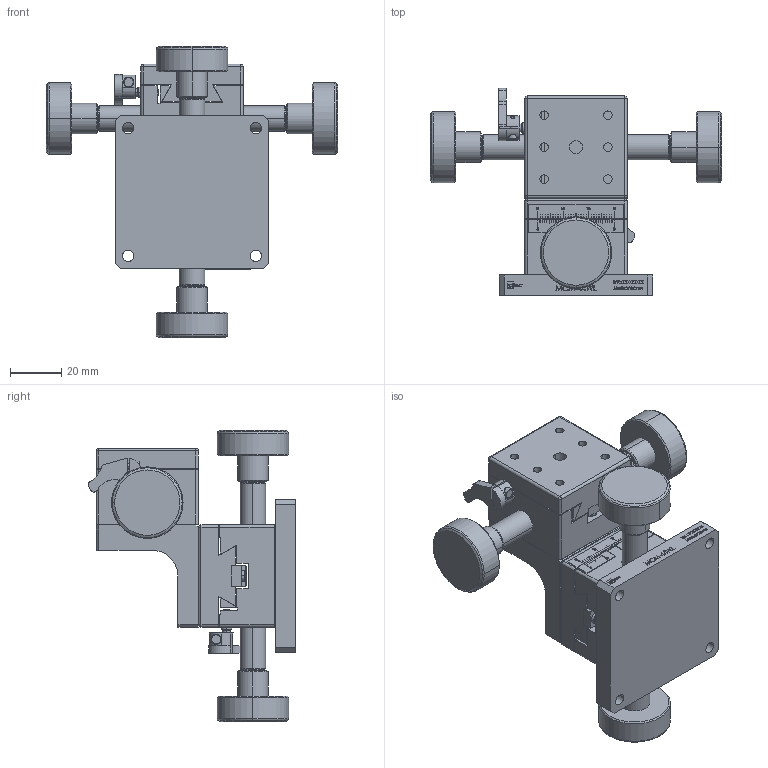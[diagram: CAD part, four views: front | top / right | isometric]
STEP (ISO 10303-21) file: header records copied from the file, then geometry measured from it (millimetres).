
FILE_DESCRIPTION (( 'STEP AP203' ), '1' );
FILE_NAME ('MCM-44LW-(«¬¿ý).STEP', '2013-10-05T02:30:28', ( '' ), ( '' ), 'SwSTEP 2.0', 'SolidWorks 2013', '' );
FILE_SCHEMA (( 'CONFIG_CONTROL_DESIGN' ));
Length unit declared in the file: millimetre
Products named in the file (4): Group1^MCM-44LW-(型錄); Group2^MCM-44LW-(型錄); Group3^MCM-44LW-(型錄); MCM-44LW-(型錄)
Assembly tree (3 placements, depth 2):
  MCM-44LW-(型錄)
    Group1^MCM-44LW-(型錄)
    Group2^MCM-44LW-(型錄)
    Group3^MCM-44LW-(型錄)
Bounding box: 114 x 81.02 x 114 mm (x, y, z)
Volume: 182018.8 mm3; surface area: 50008.8 mm2
Topology: 3 solids, 3 shells, 1804 faces, 4810 edges, 3121 vertices
Faces by surface type: plane 1210, bspline 240, cylinder 203, cone 111, torus 24, sphere 16
Entity records: 71847 total; most frequent: CARTESIAN_POINT 27757, ORIENTED_EDGE 9588, DIRECTION 8078, EDGE_CURVE 4794, VECTOR 3556, LINE 3556, VERTEX_POINT 3121, AXIS2_PLACEMENT_3D 2261
